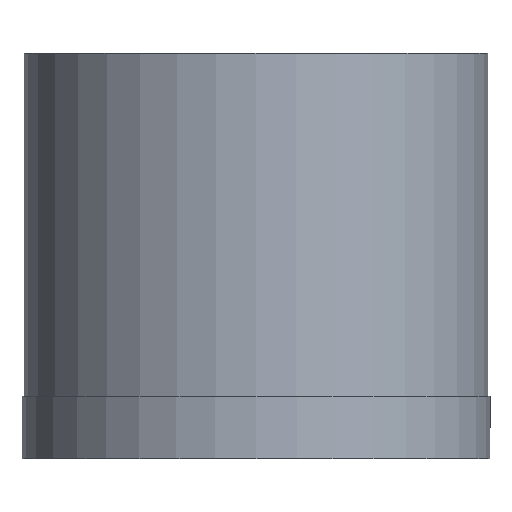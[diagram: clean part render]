
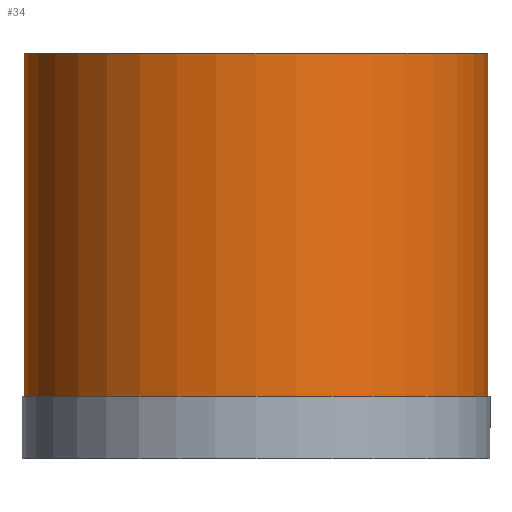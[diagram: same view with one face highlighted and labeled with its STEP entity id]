
A CAD part, front view. The second image highlights one B-rep face of the part: STEP entity #34.
In plain terms, the highlighted cylindrical face has radius 7.427 mm (diameter 14.854 mm), a full revolution.
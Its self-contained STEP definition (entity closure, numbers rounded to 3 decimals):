
#17 = DIRECTION ( 'NONE',  ( 0., 0., -1. ) ) ;
#25 = DIRECTION ( 'NONE',  ( 0., 0., -1. ) ) ;
#27 = FACE_OUTER_BOUND ( 'NONE', #39, .T. ) ;
#34 = ADVANCED_FACE ( 'NONE', ( #27, #175 ), #116, .T. ) ;
#36 = VERTEX_POINT ( 'NONE', #111 ) ;
#39 = EDGE_LOOP ( 'NONE', ( #170 ) ) ;
#43 = CIRCLE ( 'NONE', #182, 7.427 ) ;
#87 = CARTESIAN_POINT ( 'NONE',  ( 0., 0., 0. ) ) ;
#95 = ORIENTED_EDGE ( 'NONE', *, *, #222, .F. ) ;
#99 = AXIS2_PLACEMENT_3D ( 'NONE', #223, #192, #101 ) ;
#101 = DIRECTION ( 'NONE',  ( -1., 0., 0. ) ) ;
#111 = CARTESIAN_POINT ( 'NONE',  ( -7.427, 0., 2. ) ) ;
#116 = CYLINDRICAL_SURFACE ( 'NONE', #154, 7.427 ) ;
#136 = CIRCLE ( 'NONE', #99, 7.427 ) ;
#152 = VERTEX_POINT ( 'NONE', #210 ) ;
#154 = AXIS2_PLACEMENT_3D ( 'NONE', #87, #17, #228 ) ;
#157 = DIRECTION ( 'NONE',  ( -1., 0., 0. ) ) ;
#168 = EDGE_CURVE ( 'NONE', #152, #152, #43, .T. ) ;
#170 = ORIENTED_EDGE ( 'NONE', *, *, #168, .T. ) ;
#175 = FACE_OUTER_BOUND ( 'NONE', #234, .T. ) ;
#182 = AXIS2_PLACEMENT_3D ( 'NONE', #185, #25, #157 ) ;
#185 = CARTESIAN_POINT ( 'NONE',  ( 0., 0., 13. ) ) ;
#192 = DIRECTION ( 'NONE',  ( 0., 0., -1. ) ) ;
#210 = CARTESIAN_POINT ( 'NONE',  ( -7.427, 0., 13. ) ) ;
#222 = EDGE_CURVE ( 'NONE', #36, #36, #136, .T. ) ;
#223 = CARTESIAN_POINT ( 'NONE',  ( 0., 0., 2. ) ) ;
#228 = DIRECTION ( 'NONE',  ( -1., 0., 0. ) ) ;
#234 = EDGE_LOOP ( 'NONE', ( #95 ) ) ;
